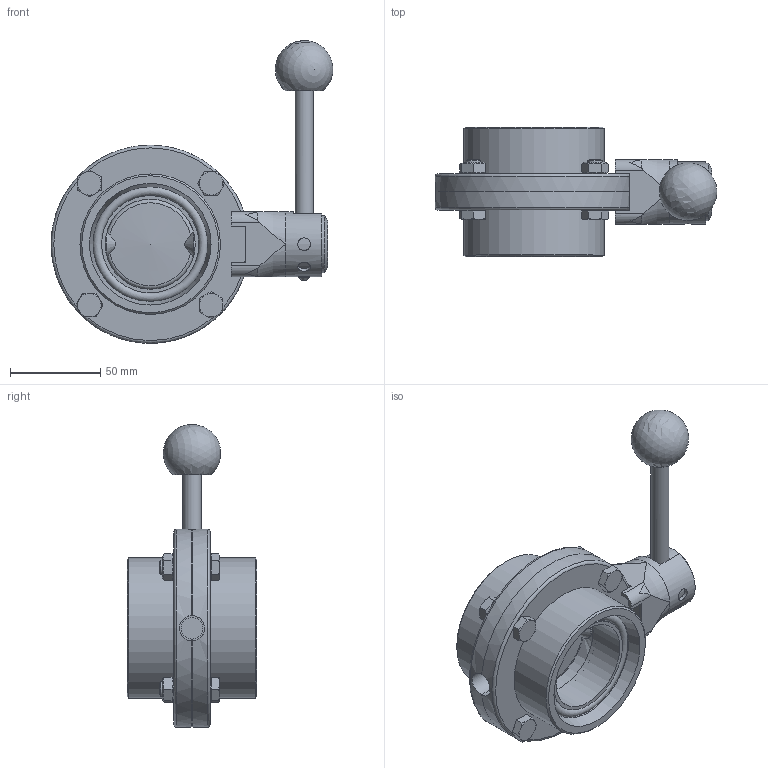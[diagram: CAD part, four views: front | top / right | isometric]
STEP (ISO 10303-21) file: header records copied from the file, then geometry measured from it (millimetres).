
FILE_DESCRIPTION((''),'2;1');
FILE_NAME('K:\2013 konstrukce\4xxxx\43030-KLAPKA PŘÍMÁ G-G\43030-050\43030-050.stp','2019-12-09T14:22:37',('konstrukce'),(''),'Autodesk Inventor 2010','Autodesk Inventor 2010','');
FILE_SCHEMA(('AUTOMOTIVE_DESIGN { 1 0 10303 214 1 1 1 1 }'));
Length unit declared in the file: millimetre
Products named in the file (14): 43030-050; 4382-050-Přírubá klapka-závitová; 4329-050-Srdca klapky; 4330-050-Ložisko klapky; 4328-050-Těsnění pro klapku; ovladani 25-65; 43483-025-065 Plášť ovládání malý-Handle cover small; KOULA-25-65; 43481-025-065-9,5 Střed ovládání malý-Handle pivot small; 43482-025-032; 43482-025-32; DIN 933 - nahrazený DIN EN 24017 M8  x 28; DIN 934 - nahrazený DIN EN 24032/28673/28674 M8; 20040-050 TĚSNĚNÍ
Assembly tree (22 placements, depth 3):
  43030-050
    4382-050-Přírubá klapka-závitová  x2
    4329-050-Srdca klapky
    4330-050-Ložisko klapky  x2
    4328-050-Těsnění pro klapku
    ovladani 25-65
      43483-025-065 Plášť ovládání malý-Handle cover small
      KOULA-25-65
      43481-025-065-9,5 Střed ovládání malý-Handle pivot small
      43482-025-032
      43482-025-32
    DIN 933 - nahrazený DIN EN 24017 M8  x 28  x4
    DIN 934 - nahrazený DIN EN 24032/28673/28674 M8  x4
    20040-050 TĚSNĚNÍ  x2
Bounding box: 156.37 x 72 x 167.97 mm (x, y, z)
Volume: 356547 mm3; surface area: 125586.7 mm2
Topology: 21 solids, 21 shells, 332 faces, 788 edges, 498 vertices
Faces by surface type: plane 155, cylinder 72, cone 70, bspline 22, torus 12, sphere 1
Full cylindrical faces by diameter (mm): 6 x1, 7 x1, 7.323 x4, 8 x4, 8.5 x11, 10 x2, 10.2 x1, 11.4 x4, 12 x4, 14 x4, 14.1 x1, 31.8 x1, 36 x1, 50 x2, 54 x4, 63.8 x2, 64 x2, 66.5 x2, 67 x1, 78 x2, 110 x2
Entity records: 6885 total; most frequent: CARTESIAN_POINT 2262, DIRECTION 870, ORIENTED_EDGE 774, EDGE_CURVE 387, AXIS2_PLACEMENT_3D 356, EDGE_LOOP 314, VERTEX_POINT 289, FACE_OUTER_BOUND 196
